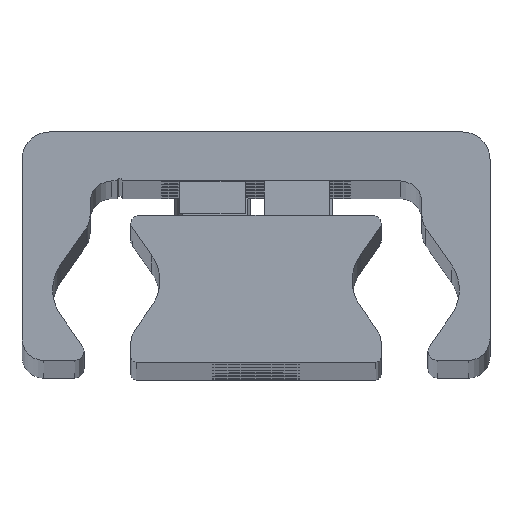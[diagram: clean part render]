
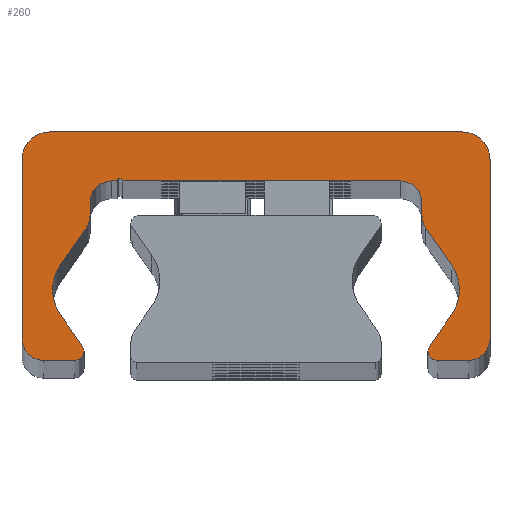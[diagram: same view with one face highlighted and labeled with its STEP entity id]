
A CAD part, top view. The second image highlights one B-rep face of the part: STEP entity #260.
In plain terms, the highlighted planar face has unit normal (0, 0, 1).
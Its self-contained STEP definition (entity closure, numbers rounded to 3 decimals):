
#260=ADVANCED_FACE('',(#706),#707,.T.);
#706=FACE_OUTER_BOUND('',#1153,.T.);
#707=PLANE('',#1154);
#1153=EDGE_LOOP('',(#2666,#2667,#2668,#2669,#2670,#2671,#2672,#2673,#2674,#2675,#2676,#2677,#2678,#2679,#2680,#2681,#2682,#2683,#2684,#2685,#2686,#2687,#2688,#2689,#2690,#2691,#2692,#2693,#2694,#2695));
#1154=AXIS2_PLACEMENT_3D('',#2696,#2697,#2698);
#2666=ORIENTED_EDGE('',*,*,#2999,.F.);
#2667=ORIENTED_EDGE('',*,*,#3222,.F.);
#2668=ORIENTED_EDGE('',*,*,#2985,.F.);
#2669=ORIENTED_EDGE('',*,*,#3221,.F.);
#2670=ORIENTED_EDGE('',*,*,#3217,.F.);
#2671=ORIENTED_EDGE('',*,*,#3214,.F.);
#2672=ORIENTED_EDGE('',*,*,#3211,.F.);
#2673=ORIENTED_EDGE('',*,*,#3208,.F.);
#2674=ORIENTED_EDGE('',*,*,#3205,.F.);
#2675=ORIENTED_EDGE('',*,*,#3202,.F.);
#2676=ORIENTED_EDGE('',*,*,#3199,.F.);
#2677=ORIENTED_EDGE('',*,*,#3196,.F.);
#2678=ORIENTED_EDGE('',*,*,#3193,.F.);
#2679=ORIENTED_EDGE('',*,*,#3190,.F.);
#2680=ORIENTED_EDGE('',*,*,#2991,.F.);
#2681=ORIENTED_EDGE('',*,*,#3188,.F.);
#2682=ORIENTED_EDGE('',*,*,#2993,.F.);
#2683=ORIENTED_EDGE('',*,*,#3187,.F.);
#2684=ORIENTED_EDGE('',*,*,#3183,.F.);
#2685=ORIENTED_EDGE('',*,*,#3180,.F.);
#2686=ORIENTED_EDGE('',*,*,#3177,.F.);
#2687=ORIENTED_EDGE('',*,*,#3174,.F.);
#2688=ORIENTED_EDGE('',*,*,#3171,.F.);
#2689=ORIENTED_EDGE('',*,*,#3168,.F.);
#2690=ORIENTED_EDGE('',*,*,#3165,.F.);
#2691=ORIENTED_EDGE('',*,*,#3162,.F.);
#2692=ORIENTED_EDGE('',*,*,#3159,.F.);
#2693=ORIENTED_EDGE('',*,*,#3156,.F.);
#2694=ORIENTED_EDGE('',*,*,#3153,.F.);
#2695=ORIENTED_EDGE('',*,*,#3150,.F.);
#2696=CARTESIAN_POINT('',(-0.023,14.187,447.0));
#2697=DIRECTION('',(0.0,0.0,1.0));
#2698=DIRECTION('',(1.0,0.0,0.0));
#2985=EDGE_CURVE('',#3628,#3631,#3632,.T.);
#2991=EDGE_CURVE('',#3641,#3637,#3643,.T.);
#2993=EDGE_CURVE('',#3644,#3647,#3648,.T.);
#2999=EDGE_CURVE('',#3657,#3653,#3659,.T.);
#3150=EDGE_CURVE('',#3653,#3902,#3903,.T.);
#3153=EDGE_CURVE('',#3902,#3907,#3908,.T.);
#3156=EDGE_CURVE('',#3907,#3912,#3913,.T.);
#3159=EDGE_CURVE('',#3912,#3917,#3918,.T.);
#3162=EDGE_CURVE('',#3917,#3922,#3923,.T.);
#3165=EDGE_CURVE('',#3922,#3927,#3928,.T.);
#3168=EDGE_CURVE('',#3927,#3932,#3933,.T.);
#3171=EDGE_CURVE('',#3932,#3937,#3938,.T.);
#3174=EDGE_CURVE('',#3937,#3942,#3943,.T.);
#3177=EDGE_CURVE('',#3942,#3947,#3948,.T.);
#3180=EDGE_CURVE('',#3947,#3952,#3953,.T.);
#3183=EDGE_CURVE('',#3952,#3957,#3958,.T.);
#3187=EDGE_CURVE('',#3957,#3644,#3963,.T.);
#3188=EDGE_CURVE('',#3647,#3641,#3964,.T.);
#3190=EDGE_CURVE('',#3637,#3966,#3967,.T.);
#3193=EDGE_CURVE('',#3966,#3971,#3972,.T.);
#3196=EDGE_CURVE('',#3971,#3976,#3977,.T.);
#3199=EDGE_CURVE('',#3976,#3981,#3982,.T.);
#3202=EDGE_CURVE('',#3981,#3986,#3987,.T.);
#3205=EDGE_CURVE('',#3986,#3991,#3992,.T.);
#3208=EDGE_CURVE('',#3991,#3996,#3997,.T.);
#3211=EDGE_CURVE('',#3996,#4001,#4002,.T.);
#3214=EDGE_CURVE('',#4001,#4006,#4007,.T.);
#3217=EDGE_CURVE('',#4006,#4011,#4012,.T.);
#3221=EDGE_CURVE('',#4011,#3628,#4017,.T.);
#3222=EDGE_CURVE('',#3631,#3657,#4018,.T.);
#3628=VERTEX_POINT('',#4556);
#3631=VERTEX_POINT('',#4560);
#3632=CIRCLE('',#4561,0.85);
#3637=VERTEX_POINT('',#4567);
#3641=VERTEX_POINT('',#4572);
#3643=CIRCLE('',#4575,0.85);
#3644=VERTEX_POINT('',#4576);
#3647=VERTEX_POINT('',#4580);
#3648=CIRCLE('',#4581,4.);
#3653=VERTEX_POINT('',#4587);
#3657=VERTEX_POINT('',#4592);
#3659=CIRCLE('',#4595,4.);
#3902=VERTEX_POINT('',#4912);
#3903=CIRCLE('',#4913,4.);
#3907=VERTEX_POINT('',#4918);
#3908=LINE('',#4919,#4920);
#3912=VERTEX_POINT('',#4926);
#3913=CIRCLE('',#4927,2.);
#3917=VERTEX_POINT('',#4932);
#3918=LINE('',#4933,#4934);
#3922=VERTEX_POINT('',#4940);
#3923=CIRCLE('',#4941,2.0);
#3927=VERTEX_POINT('',#4946);
#3928=LINE('',#4947,#4948);
#3932=VERTEX_POINT('',#4954);
#3933=CIRCLE('',#4955,0.25);
#3937=VERTEX_POINT('',#4960);
#3938=LINE('',#4961,#4962);
#3942=VERTEX_POINT('',#4968);
#3943=CIRCLE('',#4969,2.0);
#3947=VERTEX_POINT('',#4974);
#3948=LINE('',#4975,#4976);
#3952=VERTEX_POINT('',#4982);
#3953=CIRCLE('',#4983,2.0);
#3957=VERTEX_POINT('',#4988);
#3958=LINE('',#4989,#4990);
#3963=CIRCLE('',#4997,4.);
#3964=LINE('',#4998,#4999);
#3966=VERTEX_POINT('',#5002);
#3967=CIRCLE('',#5003,0.85);
#3971=VERTEX_POINT('',#5008);
#3972=LINE('',#5009,#5010);
#3976=VERTEX_POINT('',#5016);
#3977=CIRCLE('',#5017,2.);
#3981=VERTEX_POINT('',#5022);
#3982=LINE('',#5023,#5024);
#3986=VERTEX_POINT('',#5030);
#3987=CIRCLE('',#5031,2.5);
#3991=VERTEX_POINT('',#5036);
#3992=LINE('',#5037,#5038);
#3996=VERTEX_POINT('',#5044);
#3997=CIRCLE('',#5045,2.5);
#4001=VERTEX_POINT('',#5050);
#4002=LINE('',#5051,#5052);
#4006=VERTEX_POINT('',#5058);
#4007=CIRCLE('',#5059,2.);
#4011=VERTEX_POINT('',#5064);
#4012=LINE('',#5065,#5066);
#4017=CIRCLE('',#5073,0.85);
#4018=LINE('',#5074,#5075);
#4556=CARTESIAN_POINT('',(15.8,1.859,447.0));
#4560=CARTESIAN_POINT('',(15.922,2.298,447.0));
#4561=AXIS2_PLACEMENT_3D('',#5571,#5572,#5573);
#4567=CARTESIAN_POINT('',(-15.8,1.859,447.0));
#4572=CARTESIAN_POINT('',(-15.922,2.298,447.0));
#4575=AXIS2_PLACEMENT_3D('',#5583,#5584,#5585);
#4576=CARTESIAN_POINT('',(-18.688,7.509,447.0));
#4580=CARTESIAN_POINT('',(-17.964,5.214,447.0));
#4581=AXIS2_PLACEMENT_3D('',#5587,#5588,#5589);
#4587=CARTESIAN_POINT('',(18.688,7.509,447.0));
#4592=CARTESIAN_POINT('',(17.964,5.214,447.0));
#4595=AXIS2_PLACEMENT_3D('',#5599,#5600,#5601);
#4912=CARTESIAN_POINT('',(17.964,9.803,447.0));
#4913=AXIS2_PLACEMENT_3D('',#5904,#5905,#5906);
#4918=CARTESIAN_POINT('',(15.612,13.163,447.0));
#4919=CARTESIAN_POINT('',(15.612,13.163,447.0));
#4920=VECTOR('',#5911,1.0);
#4926=CARTESIAN_POINT('',(15.25,14.31,447.0));
#4927=AXIS2_PLACEMENT_3D('',#5914,#5915,#5916);
#4932=CARTESIAN_POINT('',(15.25,15.509,447.0));
#4933=CARTESIAN_POINT('',(15.25,15.509,447.0));
#4934=VECTOR('',#5921,1.0);
#4940=CARTESIAN_POINT('',(13.25,17.509,447.0));
#4941=AXIS2_PLACEMENT_3D('',#5924,#5925,#5926);
#4946=CARTESIAN_POINT('',(-12.25,17.509,447.0));
#4947=CARTESIAN_POINT('',(-12.25,17.509,447.0));
#4948=VECTOR('',#5931,1.0);
#4954=CARTESIAN_POINT('',(-12.75,17.509,447.0));
#4955=AXIS2_PLACEMENT_3D('',#5934,#5935,#5936);
#4960=CARTESIAN_POINT('',(-13.25,17.509,447.0));
#4961=CARTESIAN_POINT('',(-13.25,17.509,447.0));
#4962=VECTOR('',#5941,1.0);
#4968=CARTESIAN_POINT('',(-15.25,15.509,447.0));
#4969=AXIS2_PLACEMENT_3D('',#5944,#5945,#5946);
#4974=CARTESIAN_POINT('',(-15.25,14.31,447.0));
#4975=CARTESIAN_POINT('',(-15.25,14.31,447.0));
#4976=VECTOR('',#5951,1.0);
#4982=CARTESIAN_POINT('',(-15.612,13.163,447.0));
#4983=AXIS2_PLACEMENT_3D('',#5954,#5955,#5956);
#4988=CARTESIAN_POINT('',(-17.964,9.803,447.0));
#4989=CARTESIAN_POINT('',(-17.964,9.803,447.0));
#4990=VECTOR('',#5961,1.);
#4997=AXIS2_PLACEMENT_3D('',#5967,#5968,#5969);
#4998=CARTESIAN_POINT('',(-15.922,2.298,447.0));
#4999=VECTOR('',#5970,1.0);
#5002=CARTESIAN_POINT('',(-16.65,1.009,447.0));
#5003=AXIS2_PLACEMENT_3D('',#5972,#5973,#5974);
#5008=CARTESIAN_POINT('',(-19.5,1.009,447.0));
#5009=CARTESIAN_POINT('',(-19.5,1.009,447.0));
#5010=VECTOR('',#5979,1.0);
#5016=CARTESIAN_POINT('',(-21.5,3.009,447.0));
#5017=AXIS2_PLACEMENT_3D('',#5982,#5983,#5984);
#5022=CARTESIAN_POINT('',(-21.5,19.509,447.0));
#5023=CARTESIAN_POINT('',(-21.5,19.509,447.0));
#5024=VECTOR('',#5989,1.0);
#5030=CARTESIAN_POINT('',(-19.0,22.009,447.0));
#5031=AXIS2_PLACEMENT_3D('',#5992,#5993,#5994);
#5036=CARTESIAN_POINT('',(19.0,22.009,447.0));
#5037=CARTESIAN_POINT('',(19.0,22.009,447.0));
#5038=VECTOR('',#5999,1.0);
#5044=CARTESIAN_POINT('',(21.5,19.509,447.0));
#5045=AXIS2_PLACEMENT_3D('',#6002,#6003,#6004);
#5050=CARTESIAN_POINT('',(21.5,3.009,447.0));
#5051=CARTESIAN_POINT('',(21.5,3.009,447.0));
#5052=VECTOR('',#6009,1.0);
#5058=CARTESIAN_POINT('',(19.5,1.009,447.0));
#5059=AXIS2_PLACEMENT_3D('',#6012,#6013,#6014);
#5064=CARTESIAN_POINT('',(16.65,1.009,447.0));
#5065=CARTESIAN_POINT('',(16.65,1.009,447.0));
#5066=VECTOR('',#6019,1.0);
#5073=AXIS2_PLACEMENT_3D('',#6025,#6026,#6027);
#5074=CARTESIAN_POINT('',(17.964,5.214,447.0));
#5075=VECTOR('',#6028,1.0);
#5571=CARTESIAN_POINT('',(16.65,1.859,447.0));
#5572=DIRECTION('',(0.0,0.0,-1.0));
#5573=DIRECTION('',(1.0,0.0,0.0));
#5583=CARTESIAN_POINT('',(-16.65,1.859,447.0));
#5584=DIRECTION('',(0.0,0.0,-1.0));
#5585=DIRECTION('',(1.0,0.0,0.0));
#5587=CARTESIAN_POINT('',(-14.688,7.509,447.0));
#5588=DIRECTION('',(0.0,0.0,1.0));
#5589=DIRECTION('',(1.0,0.0,0.0));
#5599=CARTESIAN_POINT('',(14.688,7.509,447.0));
#5600=DIRECTION('',(0.0,0.0,1.0));
#5601=DIRECTION('',(1.0,0.0,0.0));
#5904=CARTESIAN_POINT('',(14.688,7.509,447.0));
#5905=DIRECTION('',(0.0,0.0,1.0));
#5906=DIRECTION('',(1.0,0.0,0.0));
#5911=DIRECTION('',(-0.574,0.819,0.0));
#5914=CARTESIAN_POINT('',(17.25,14.31,447.0));
#5915=DIRECTION('',(0.0,0.0,-1.0));
#5916=DIRECTION('',(1.0,0.0,0.0));
#5921=DIRECTION('',(0.0,1.0,0.0));
#5924=CARTESIAN_POINT('',(13.25,15.509,447.0));
#5925=DIRECTION('',(0.0,0.0,1.0));
#5926=DIRECTION('',(1.0,0.0,0.0));
#5931=DIRECTION('',(-1.0,-0.0,-0.0));
#5934=CARTESIAN_POINT('',(-12.5,17.509,447.0));
#5935=DIRECTION('',(0.0,0.0,1.0));
#5936=DIRECTION('',(1.0,0.0,0.0));
#5941=DIRECTION('',(-1.0,-0.0,-0.0));
#5944=CARTESIAN_POINT('',(-13.25,15.509,447.0));
#5945=DIRECTION('',(0.0,0.0,1.0));
#5946=DIRECTION('',(1.0,0.0,0.0));
#5951=DIRECTION('',(-0.0,-1.0,-0.0));
#5954=CARTESIAN_POINT('',(-17.25,14.31,447.0));
#5955=DIRECTION('',(0.0,0.0,-1.0));
#5956=DIRECTION('',(1.0,0.0,0.0));
#5961=DIRECTION('',(-0.574,-0.819,-0.0));
#5967=CARTESIAN_POINT('',(-14.688,7.509,447.0));
#5968=DIRECTION('',(0.0,0.0,1.0));
#5969=DIRECTION('',(1.0,0.0,0.0));
#5970=DIRECTION('',(0.574,-0.819,0.0));
#5972=CARTESIAN_POINT('',(-16.65,1.859,447.0));
#5973=DIRECTION('',(0.0,0.0,-1.0));
#5974=DIRECTION('',(1.0,0.0,0.0));
#5979=DIRECTION('',(-1.0,-0.0,-0.0));
#5982=CARTESIAN_POINT('',(-19.5,3.009,447.0));
#5983=DIRECTION('',(0.0,0.0,-1.0));
#5984=DIRECTION('',(1.0,0.0,0.0));
#5989=DIRECTION('',(0.0,1.0,0.0));
#5992=CARTESIAN_POINT('',(-19.0,19.509,447.0));
#5993=DIRECTION('',(0.0,0.0,-1.0));
#5994=DIRECTION('',(1.0,0.0,0.0));
#5999=DIRECTION('',(1.0,0.0,0.0));
#6002=CARTESIAN_POINT('',(19.0,19.509,447.0));
#6003=DIRECTION('',(0.0,0.0,-1.0));
#6004=DIRECTION('',(1.0,0.0,0.0));
#6009=DIRECTION('',(-0.0,-1.0,-0.0));
#6012=CARTESIAN_POINT('',(19.5,3.009,447.0));
#6013=DIRECTION('',(0.0,0.0,-1.0));
#6014=DIRECTION('',(1.0,0.0,0.0));
#6019=DIRECTION('',(-1.0,-0.0,-0.0));
#6025=CARTESIAN_POINT('',(16.65,1.859,447.0));
#6026=DIRECTION('',(0.0,0.0,-1.0));
#6027=DIRECTION('',(1.0,0.0,0.0));
#6028=DIRECTION('',(0.574,0.819,0.0));
